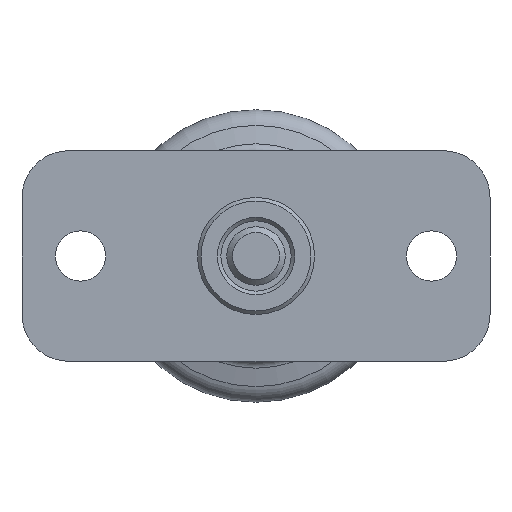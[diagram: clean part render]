
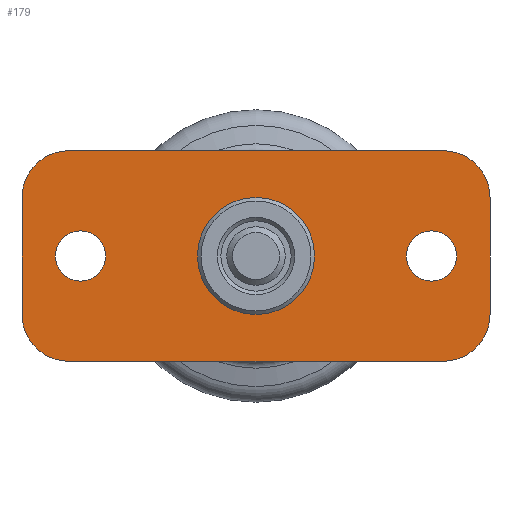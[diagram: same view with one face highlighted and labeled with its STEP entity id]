
A CAD part, front view. The second image highlights one B-rep face of the part: STEP entity #179.
In plain terms, the highlighted planar face has unit normal (0, -1, 0).
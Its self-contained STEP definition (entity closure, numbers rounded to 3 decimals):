
#179 = ADVANCED_FACE( '', ( #251, #252, #253, #254 ), #255, .F. );
#251 = FACE_BOUND( '', #400, .T. );
#252 = FACE_BOUND( '', #401, .T. );
#253 = FACE_BOUND( '', #402, .T. );
#254 = FACE_OUTER_BOUND( '', #403, .T. );
#255 = PLANE( '', #404 );
#400 = EDGE_LOOP( '', ( #596 ) );
#401 = EDGE_LOOP( '', ( #597 ) );
#402 = EDGE_LOOP( '', ( #598 ) );
#403 = EDGE_LOOP( '', ( #599, #600, #601, #602, #603, #604, #605, #606 ) );
#404 = AXIS2_PLACEMENT_3D( '', #607, #608, #609 );
#596 = ORIENTED_EDGE( '', *, *, #902, .F. );
#597 = ORIENTED_EDGE( '', *, *, #900, .F. );
#598 = ORIENTED_EDGE( '', *, *, #919, .F. );
#599 = ORIENTED_EDGE( '', *, *, #910, .F. );
#600 = ORIENTED_EDGE( '', *, *, #920, .F. );
#601 = ORIENTED_EDGE( '', *, *, #921, .F. );
#602 = ORIENTED_EDGE( '', *, *, #922, .F. );
#603 = ORIENTED_EDGE( '', *, *, #923, .F. );
#604 = ORIENTED_EDGE( '', *, *, #924, .F. );
#605 = ORIENTED_EDGE( '', *, *, #925, .F. );
#606 = ORIENTED_EDGE( '', *, *, #926, .F. );
#607 = CARTESIAN_POINT( '', ( -16., 0., 5. ) );
#608 = DIRECTION( '', ( 0., 1., 0. ) );
#609 = DIRECTION( '', ( 0., 0., 1. ) );
#900 = EDGE_CURVE( '', #1008, #1008, #1009, .T. );
#902 = EDGE_CURVE( '', #1012, #1012, #1013, .T. );
#910 = EDGE_CURVE( '', #1028, #1029, #1030, .T. );
#919 = EDGE_CURVE( '', #1043, #1043, #1044, .T. );
#920 = EDGE_CURVE( '', #1045, #1028, #1046, .T. );
#921 = EDGE_CURVE( '', #1047, #1045, #1048, .T. );
#922 = EDGE_CURVE( '', #1049, #1047, #1050, .T. );
#923 = EDGE_CURVE( '', #1051, #1049, #1052, .T. );
#924 = EDGE_CURVE( '', #1053, #1051, #1054, .T. );
#925 = EDGE_CURVE( '', #1055, #1053, #1056, .T. );
#926 = EDGE_CURVE( '', #1029, #1055, #1057, .T. );
#1008 = VERTEX_POINT( '', #1252 );
#1009 = CIRCLE( '', #1253, 2.15 );
#1012 = VERTEX_POINT( '', #1256 );
#1013 = CIRCLE( '', #1257, 2.15 );
#1028 = VERTEX_POINT( '', #1275 );
#1029 = VERTEX_POINT( '', #1276 );
#1030 = LINE( '', #1277, #1278 );
#1043 = VERTEX_POINT( '', #1296 );
#1044 = CIRCLE( '', #1297, 5. );
#1045 = VERTEX_POINT( '', #1298 );
#1046 = CIRCLE( '', #1299, 4. );
#1047 = VERTEX_POINT( '', #1300 );
#1048 = LINE( '', #1301, #1302 );
#1049 = VERTEX_POINT( '', #1303 );
#1050 = CIRCLE( '', #1304, 4. );
#1051 = VERTEX_POINT( '', #1305 );
#1052 = LINE( '', #1306, #1307 );
#1053 = VERTEX_POINT( '', #1308 );
#1054 = CIRCLE( '', #1309, 4. );
#1055 = VERTEX_POINT( '', #1310 );
#1056 = LINE( '', #1311, #1312 );
#1057 = CIRCLE( '', #1313, 4. );
#1252 = CARTESIAN_POINT( '', ( -15., 0., -2.15 ) );
#1253 = AXIS2_PLACEMENT_3D( '', #1521, #1522, #1523 );
#1256 = CARTESIAN_POINT( '', ( 15., 0., -2.15 ) );
#1257 = AXIS2_PLACEMENT_3D( '', #1527, #1528, #1529 );
#1275 = CARTESIAN_POINT( '', ( -20., 0., -5. ) );
#1276 = CARTESIAN_POINT( '', ( -20., 0., 5. ) );
#1277 = CARTESIAN_POINT( '', ( -20., 0., -5. ) );
#1278 = VECTOR( '', #1545, 1000. );
#1296 = CARTESIAN_POINT( '', ( 0., 0., -5. ) );
#1297 = AXIS2_PLACEMENT_3D( '', #1560, #1561, #1562 );
#1298 = CARTESIAN_POINT( '', ( -16., 0., -9. ) );
#1299 = AXIS2_PLACEMENT_3D( '', #1563, #1564, #1565 );
#1300 = CARTESIAN_POINT( '', ( 16., 0., -9. ) );
#1301 = CARTESIAN_POINT( '', ( 16., 0., -9. ) );
#1302 = VECTOR( '', #1566, 1000. );
#1303 = CARTESIAN_POINT( '', ( 20., 0., -5. ) );
#1304 = AXIS2_PLACEMENT_3D( '', #1567, #1568, #1569 );
#1305 = CARTESIAN_POINT( '', ( 20., 0., 5. ) );
#1306 = CARTESIAN_POINT( '', ( 20., 0., 5. ) );
#1307 = VECTOR( '', #1570, 1000. );
#1308 = CARTESIAN_POINT( '', ( 16., 0., 9. ) );
#1309 = AXIS2_PLACEMENT_3D( '', #1571, #1572, #1573 );
#1310 = CARTESIAN_POINT( '', ( -16., 0., 9. ) );
#1311 = CARTESIAN_POINT( '', ( -16., 0., 9. ) );
#1312 = VECTOR( '', #1574, 1000. );
#1313 = AXIS2_PLACEMENT_3D( '', #1575, #1576, #1577 );
#1521 = CARTESIAN_POINT( '', ( -15., 0., 0. ) );
#1522 = DIRECTION( '', ( 0., -1., 0. ) );
#1523 = DIRECTION( '', ( 0., 0., -1. ) );
#1527 = CARTESIAN_POINT( '', ( 15., 0., 0. ) );
#1528 = DIRECTION( '', ( 0., -1., 0. ) );
#1529 = DIRECTION( '', ( 0., 0., -1. ) );
#1545 = DIRECTION( '', ( 0., 0., 1. ) );
#1560 = CARTESIAN_POINT( '', ( 0., 0., 0. ) );
#1561 = DIRECTION( '', ( 0., -1., 0. ) );
#1562 = DIRECTION( '', ( 0., 0., -1. ) );
#1563 = CARTESIAN_POINT( '', ( -16., 0., -5. ) );
#1564 = DIRECTION( '', ( 0., 1., 0. ) );
#1565 = DIRECTION( '', ( 1., 0., 0. ) );
#1566 = DIRECTION( '', ( -1., 0., 0. ) );
#1567 = CARTESIAN_POINT( '', ( 16., 0., -5. ) );
#1568 = DIRECTION( '', ( 0., 1., 0. ) );
#1569 = DIRECTION( '', ( 1., 0., 0. ) );
#1570 = DIRECTION( '', ( 0., 0., -1. ) );
#1571 = CARTESIAN_POINT( '', ( 16., 0., 5. ) );
#1572 = DIRECTION( '', ( 0., 1., 0. ) );
#1573 = DIRECTION( '', ( 1., 0., 0. ) );
#1574 = DIRECTION( '', ( 1., 0., 0. ) );
#1575 = CARTESIAN_POINT( '', ( -16., 0., 5. ) );
#1576 = DIRECTION( '', ( 0., 1., 0. ) );
#1577 = DIRECTION( '', ( 1., 0., 0. ) );
